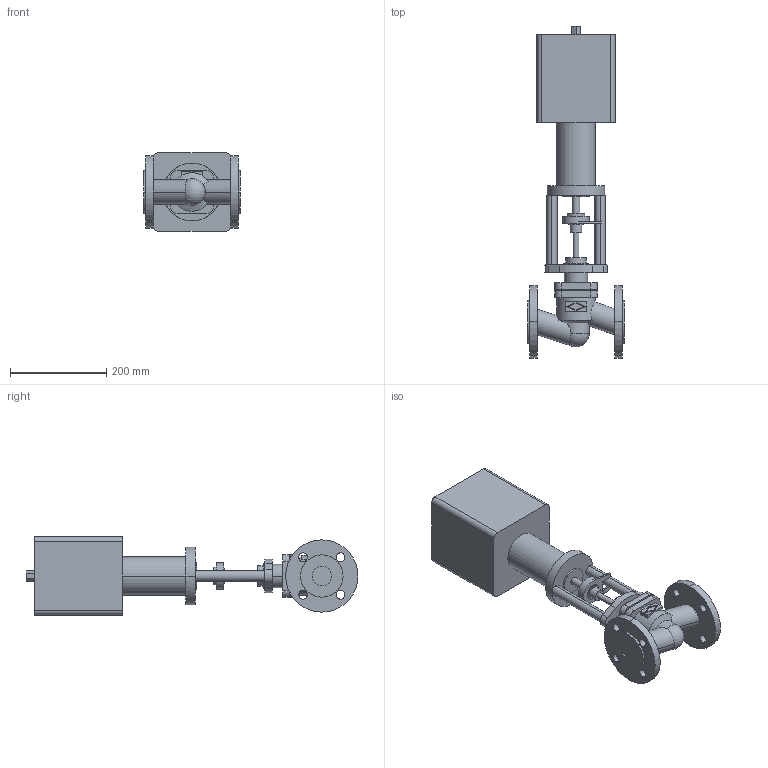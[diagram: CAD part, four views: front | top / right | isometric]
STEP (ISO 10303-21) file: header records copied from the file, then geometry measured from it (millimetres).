
FILE_DESCRIPTION( ( '' ), '1' );
FILE_NAME( 'F:/DE-SHS/TB/OR/04-Sonstiges/daten/files_3d/440-FR2.2/440-PN25-FR2_2/c000004523.stp', '2014-11-06T10:20:55', ( '' ), ( '' ), ' ', ' ', ' ' );
FILE_SCHEMA( ( 'CONFIG_CONTROL_DESIGN' ) );
Length unit declared in the file: millimetre
Products named in the file (2): 1; 2
Bounding box: 200 x 689 x 162 mm (x, y, z)
Volume: 7353622.4 mm3; surface area: 427639 mm2
Topology: 2 solids, 2 shells, 162 faces, 395 edges, 261 vertices
Faces by surface type: cylinder 82, plane 77, cone 2, sphere 1
Entity records: 5385 total; most frequent: CARTESIAN_POINT 1302, DIRECTION 883, ORIENTED_EDGE 786, EDGE_CURVE 393, AXIS2_PLACEMENT_3D 340, VERTEX_POINT 261, EDGE_LOOP 204, LINE 203
